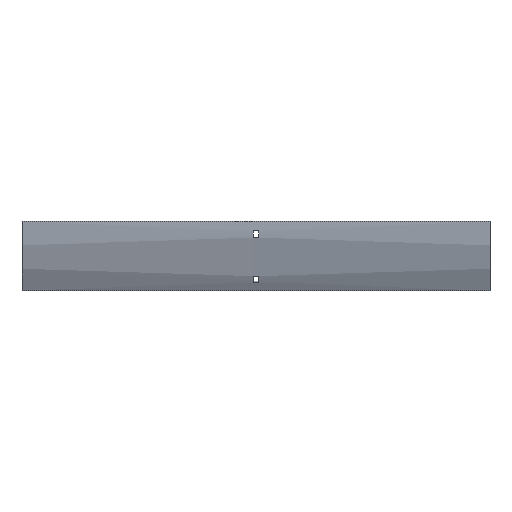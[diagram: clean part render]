
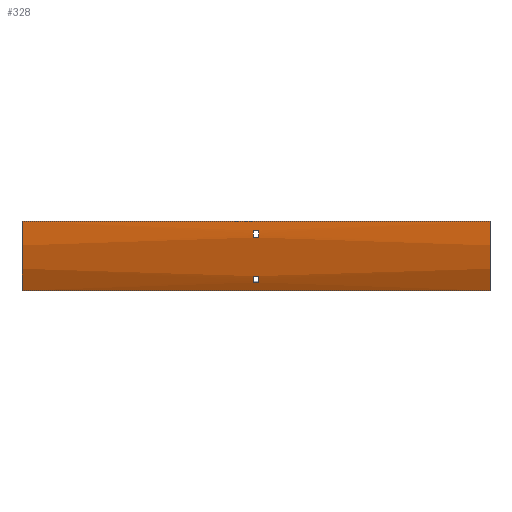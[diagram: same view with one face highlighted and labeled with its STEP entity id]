
A CAD part, front view. The second image highlights one B-rep face of the part: STEP entity #328.
In plain terms, the highlighted cylindrical face has radius 179 mm (diameter 358 mm), a partial arc.
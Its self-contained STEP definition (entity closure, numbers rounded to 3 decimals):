
#13 = VERTEX_POINT ( 'NONE', #502 ) ;
#14 = CARTESIAN_POINT ( 'NONE',  ( -3.25, -64.448, -70.695 ) ) ;
#53 = CARTESIAN_POINT ( 'NONE',  ( 302., -64.448, -70.695 ) ) ;
#55 = EDGE_LOOP ( 'NONE', ( #433, #1269, #804, #1445 ) ) ;
#63 = DIRECTION ( 'NONE',  ( -1., 0., 0. ) ) ;
#70 = EDGE_CURVE ( 'NONE', #117, #135, #429, .T. ) ;
#73 = CARTESIAN_POINT ( 'NONE',  ( -3.25, 100., 0. ) ) ;
#90 = ORIENTED_EDGE ( 'NONE', *, *, #166, .F. ) ;
#117 = VERTEX_POINT ( 'NONE', #952 ) ;
#135 = VERTEX_POINT ( 'NONE', #322 ) ;
#159 = ORIENTED_EDGE ( 'NONE', *, *, #1478, .F. ) ;
#166 = EDGE_CURVE ( 'NONE', #13, #1182, #853, .T. ) ;
#196 = LINE ( 'NONE', #53, #449 ) ;
#197 = DIRECTION ( 'NONE',  ( 0., 0., 1. ) ) ;
#204 = DIRECTION ( 'NONE',  ( 1., 0., 0. ) ) ;
#214 = DIRECTION ( 'NONE',  ( 0., 0., -1. ) ) ;
#227 = DIRECTION ( 'NONE',  ( 1., 0., 0. ) ) ;
#237 = CARTESIAN_POINT ( 'NONE',  ( 302., -79., 0. ) ) ;
#247 = ORIENTED_EDGE ( 'NONE', *, *, #1617, .T. ) ;
#257 = DIRECTION ( 'NONE',  ( 0., 0., 1. ) ) ;
#273 = CARTESIAN_POINT ( 'NONE',  ( 302., 100., 0. ) ) ;
#277 = EDGE_CURVE ( 'NONE', #953, #135, #987, .T. ) ;
#283 = VECTOR ( 'NONE', #778, 1000. ) ;
#321 = CARTESIAN_POINT ( 'NONE',  ( 302., -79., 0. ) ) ;
#322 = CARTESIAN_POINT ( 'NONE',  ( -302., -55.019, -89.5 ) ) ;
#324 = DIRECTION ( 'NONE',  ( 0., 0., -1. ) ) ;
#328 = ADVANCED_FACE ( 'NONE', ( #1678, #1423, #527 ), #396, .T. ) ;
#338 = DIRECTION ( 'NONE',  ( 1., 0., 0. ) ) ;
#339 = DIRECTION ( 'NONE',  ( -1., 0., 0. ) ) ;
#340 = CARTESIAN_POINT ( 'NONE',  ( 3.25, 100., 0. ) ) ;
#344 = VERTEX_POINT ( 'NONE', #910 ) ;
#348 = DIRECTION ( 'NONE',  ( -1., 0., 0. ) ) ;
#354 = EDGE_LOOP ( 'NONE', ( #247, #1299, #542, #414 ) ) ;
#365 = AXIS2_PLACEMENT_3D ( 'NONE', #73, #588, #1639 ) ;
#394 = VERTEX_POINT ( 'NONE', #1320 ) ;
#396 = CYLINDRICAL_SURFACE ( 'NONE', #579, 179. ) ;
#414 = ORIENTED_EDGE ( 'NONE', *, *, #697, .T. ) ;
#421 = CARTESIAN_POINT ( 'NONE',  ( 3.25, 100., 0. ) ) ;
#425 = CARTESIAN_POINT ( 'NONE',  ( -302., 100., 0. ) ) ;
#429 = CIRCLE ( 'NONE', #758, 179. ) ;
#433 = ORIENTED_EDGE ( 'NONE', *, *, #70, .T. ) ;
#449 = VECTOR ( 'NONE', #1114, 1000. ) ;
#481 = CARTESIAN_POINT ( 'NONE',  ( 3.25, -64.448, -70.695 ) ) ;
#485 = DIRECTION ( 'NONE',  ( 0., 0., -1. ) ) ;
#494 = CARTESIAN_POINT ( 'NONE',  ( 302., -55.019, -89.5 ) ) ;
#501 = DIRECTION ( 'NONE',  ( -1., 0., 0. ) ) ;
#502 = CARTESIAN_POINT ( 'NONE',  ( -3.25, -60.67, -78.906 ) ) ;
#527 = FACE_BOUND ( 'NONE', #1187, .T. ) ;
#531 = LINE ( 'NONE', #1055, #612 ) ;
#542 = ORIENTED_EDGE ( 'NONE', *, *, #1246, .T. ) ;
#551 = VERTEX_POINT ( 'NONE', #1258 ) ;
#552 = CIRCLE ( 'NONE', #990, 179. ) ;
#565 = DIRECTION ( 'NONE',  ( 0., 0., -1. ) ) ;
#568 = VERTEX_POINT ( 'NONE', #481 ) ;
#579 = AXIS2_PLACEMENT_3D ( 'NONE', #273, #501, #257 ) ;
#583 = DIRECTION ( 'NONE',  ( 1., 0., 0. ) ) ;
#588 = DIRECTION ( 'NONE',  ( -1., 0., 0. ) ) ;
#612 = VECTOR ( 'NONE', #227, 1000. ) ;
#655 = CIRCLE ( 'NONE', #1179, 179. ) ;
#663 = CIRCLE ( 'NONE', #365, 179. ) ;
#697 = EDGE_CURVE ( 'NONE', #551, #344, #655, .T. ) ;
#747 = DIRECTION ( 'NONE',  ( 1., 0., 0. ) ) ;
#758 = AXIS2_PLACEMENT_3D ( 'NONE', #425, #836, #485 ) ;
#778 = DIRECTION ( 'NONE',  ( -1., 0., 0. ) ) ;
#784 = CARTESIAN_POINT ( 'NONE',  ( 3.25, -60.67, -78.906 ) ) ;
#789 = LINE ( 'NONE', #1067, #283 ) ;
#804 = ORIENTED_EDGE ( 'NONE', *, *, #849, .F. ) ;
#826 = EDGE_CURVE ( 'NONE', #1182, #568, #1042, .T. ) ;
#836 = DIRECTION ( 'NONE',  ( 1., 0., 0. ) ) ;
#849 = EDGE_CURVE ( 'NONE', #911, #953, #552, .T. ) ;
#853 = LINE ( 'NONE', #1380, #1644 ) ;
#901 = VERTEX_POINT ( 'NONE', #14 ) ;
#910 = CARTESIAN_POINT ( 'NONE',  ( 3.25, -77.764, -21. ) ) ;
#911 = VERTEX_POINT ( 'NONE', #237 ) ;
#952 = CARTESIAN_POINT ( 'NONE',  ( -302., -79., 0. ) ) ;
#953 = VERTEX_POINT ( 'NONE', #494 ) ;
#970 = CIRCLE ( 'NONE', #1045, 179. ) ;
#979 = CARTESIAN_POINT ( 'NONE',  ( -3.25, 100., 0. ) ) ;
#987 = LINE ( 'NONE', #1520, #1263 ) ;
#990 = AXIS2_PLACEMENT_3D ( 'NONE', #1668, #747, #214 ) ;
#1042 = CIRCLE ( 'NONE', #1406, 179. ) ;
#1045 = AXIS2_PLACEMENT_3D ( 'NONE', #979, #338, #565 ) ;
#1055 = CARTESIAN_POINT ( 'NONE',  ( 302., -78.597, -12. ) ) ;
#1067 = CARTESIAN_POINT ( 'NONE',  ( 302., -77.764, -21. ) ) ;
#1113 = VECTOR ( 'NONE', #63, 1000. ) ;
#1114 = DIRECTION ( 'NONE',  ( -1., 0., 0. ) ) ;
#1179 = AXIS2_PLACEMENT_3D ( 'NONE', #421, #583, #324 ) ;
#1182 = VERTEX_POINT ( 'NONE', #784 ) ;
#1187 = EDGE_LOOP ( 'NONE', ( #159, #1443, #1662, #90 ) ) ;
#1246 = EDGE_CURVE ( 'NONE', #1666, #551, #531, .T. ) ;
#1258 = CARTESIAN_POINT ( 'NONE',  ( 3.25, -78.597, -12. ) ) ;
#1263 = VECTOR ( 'NONE', #339, 1000. ) ;
#1269 = ORIENTED_EDGE ( 'NONE', *, *, #277, .F. ) ;
#1299 = ORIENTED_EDGE ( 'NONE', *, *, #1555, .T. ) ;
#1320 = CARTESIAN_POINT ( 'NONE',  ( -3.25, -77.764, -21. ) ) ;
#1380 = CARTESIAN_POINT ( 'NONE',  ( 302., -60.67, -78.906 ) ) ;
#1406 = AXIS2_PLACEMENT_3D ( 'NONE', #340, #348, #197 ) ;
#1423 = FACE_BOUND ( 'NONE', #354, .T. ) ;
#1443 = ORIENTED_EDGE ( 'NONE', *, *, #1529, .F. ) ;
#1445 = ORIENTED_EDGE ( 'NONE', *, *, #1567, .T. ) ;
#1469 = CARTESIAN_POINT ( 'NONE',  ( -3.25, -78.597, -12. ) ) ;
#1478 = EDGE_CURVE ( 'NONE', #901, #13, #970, .T. ) ;
#1511 = LINE ( 'NONE', #321, #1113 ) ;
#1520 = CARTESIAN_POINT ( 'NONE',  ( 302., -55.019, -89.5 ) ) ;
#1529 = EDGE_CURVE ( 'NONE', #568, #901, #196, .T. ) ;
#1555 = EDGE_CURVE ( 'NONE', #394, #1666, #663, .T. ) ;
#1567 = EDGE_CURVE ( 'NONE', #911, #117, #1511, .T. ) ;
#1617 = EDGE_CURVE ( 'NONE', #344, #394, #789, .T. ) ;
#1639 = DIRECTION ( 'NONE',  ( 0., 0., 1. ) ) ;
#1644 = VECTOR ( 'NONE', #204, 1000. ) ;
#1662 = ORIENTED_EDGE ( 'NONE', *, *, #826, .F. ) ;
#1666 = VERTEX_POINT ( 'NONE', #1469 ) ;
#1668 = CARTESIAN_POINT ( 'NONE',  ( 302., 100., 0. ) ) ;
#1678 = FACE_OUTER_BOUND ( 'NONE', #55, .T. ) ;
